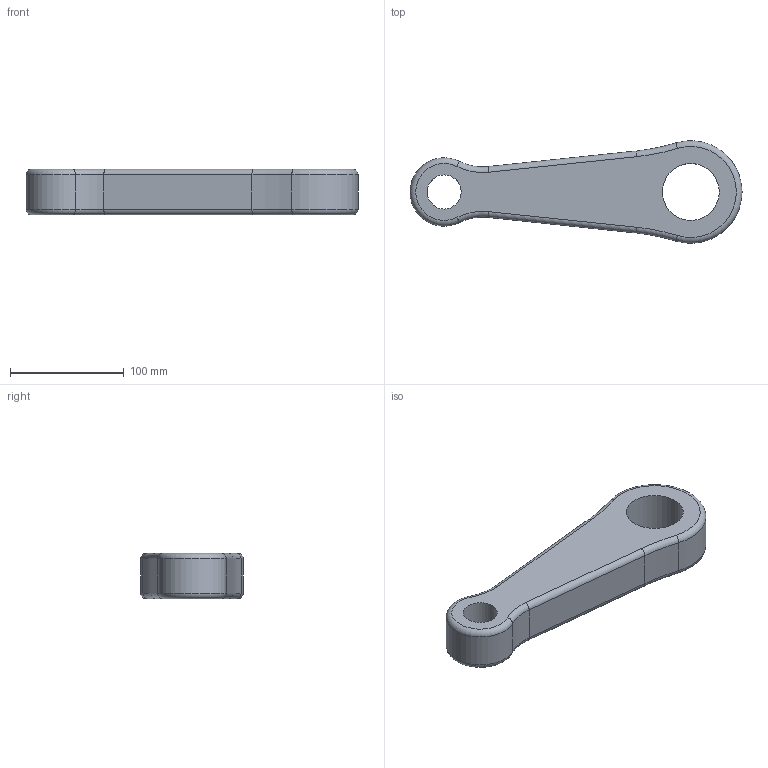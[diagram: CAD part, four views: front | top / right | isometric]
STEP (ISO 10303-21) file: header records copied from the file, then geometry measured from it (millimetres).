
FILE_DESCRIPTION(('FreeCAD Model'),'2;1');
FILE_NAME('con_rod_to_mesh.step', '2020-08-25T20:07:57',('Author'),(''), 'Open CASCADE STEP processor 7.3','FreeCAD','Unknown');
FILE_SCHEMA(('AUTOMOTIVE_DESIGN { 1 0 10303 214 1 1 1 1 }'));
Length unit declared in the file: millimetre
Products named in the file (1): con_rod_to_mesh
Bounding box: 291.55 x 89.91 x 40 mm (x, y, z)
Volume: 605828.6 mm3; surface area: 116977 mm2
Topology: 3 solids, 3 shells, 48 faces, 102 edges, 60 vertices
Faces by surface type: cylinder 24, plane 12, torus 12
Full cylindrical faces by diameter (mm): 30 x1, 50 x1
Entity records: 3010 total; most frequent: CARTESIAN_POINT 521, DIRECTION 438, LINE 212, VECTOR 212, ORIENTED_EDGE 204, PCURVE 204, DEFINITIONAL_REPRESENTATION 204, AXIS2_PLACEMENT_3D 109
